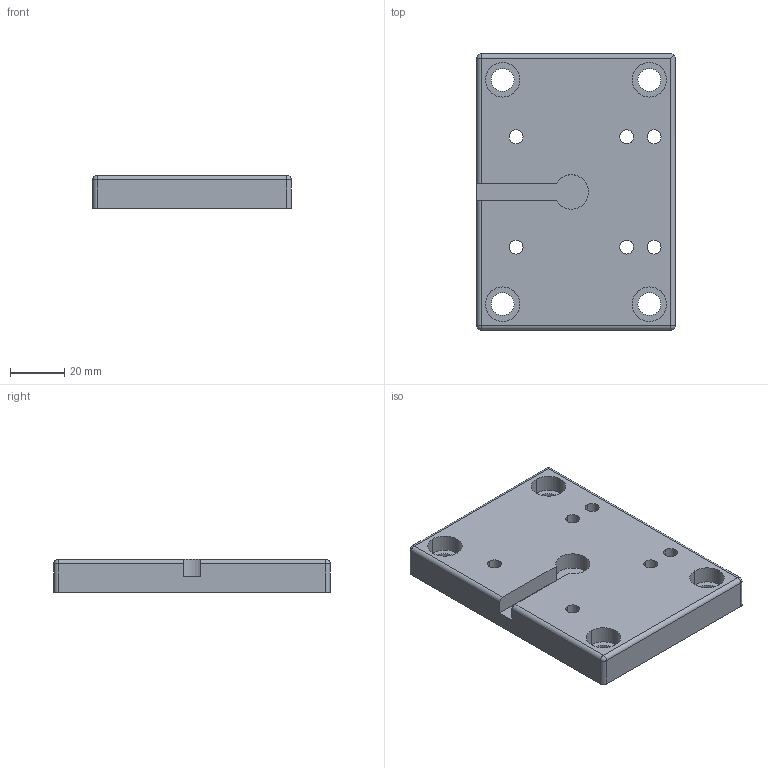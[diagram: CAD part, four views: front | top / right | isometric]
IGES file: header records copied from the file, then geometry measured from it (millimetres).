
Global section: file name: No Iges File Name specified; native system: Autodesk Inventor 2010; preprocessor: AutoDesk Inventor Iges Exporter R2010; author: mlampen; date: 20170424.120722; units: inch
Bounding box: 73.03 x 101.6 x 12.19 mm (x, y, z)
Volume: 80352.8 mm3; surface area: 22012.2 mm2
Topology: 1 solids, 1 shells, 72 faces, 174 edges, 111 vertices
Faces by surface type: revolution 41, plane 19, cylinder 9, sphere 3
